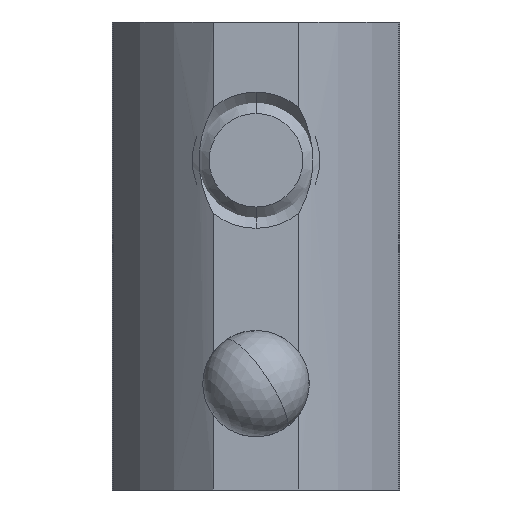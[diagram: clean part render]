
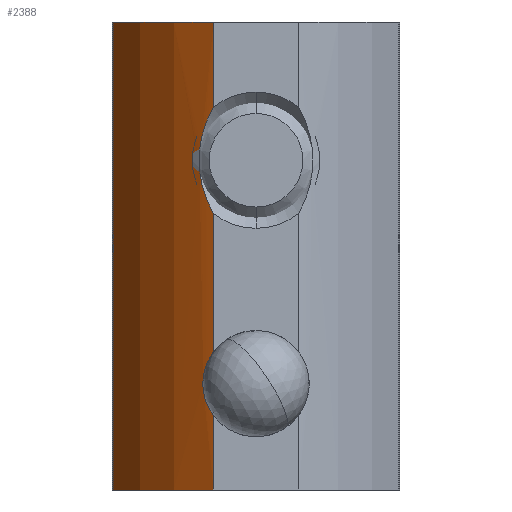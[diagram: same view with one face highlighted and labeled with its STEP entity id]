
A CAD part, front view. The second image highlights one B-rep face of the part: STEP entity #2388.
In plain terms, the highlighted cylindrical face has radius 15 mm (diameter 30 mm), a partial arc.
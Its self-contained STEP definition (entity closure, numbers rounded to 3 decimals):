
#23 = CARTESIAN_POINT ( 'NONE',  ( -2., -9., 2.498 ) ) ;
#44 = CARTESIAN_POINT ( 'NONE',  ( -2.5, -8.618, -10.5 ) ) ;
#84 = CARTESIAN_POINT ( 'NONE',  ( -2., -9., -2.498 ) ) ;
#237 = CARTESIAN_POINT ( 'NONE',  ( -2.354, -8.733, -11.341 ) ) ;
#335 = AXIS2_PLACEMENT_3D ( 'NONE', #12799, #3803, #11060 ) ;
#436 = CARTESIAN_POINT ( 'NONE',  ( -2.32, -8.759, -11.431 ) ) ;
#758 = CARTESIAN_POINT ( 'NONE',  ( -2.48, -8.634, -1.372 ) ) ;
#1010 = ORIENTED_EDGE ( 'NONE', *, *, #6101, .T. ) ;
#1093 = DIRECTION ( 'NONE',  ( 0., 0., -1. ) ) ;
#1099 = LINE ( 'NONE', #6723, #16069 ) ;
#1156 = B_SPLINE_CURVE_WITH_KNOTS ( 'NONE', 3,
 ( #13426, #1494, #9157, #12070, #15083, #436, #7390, #237, #16545, #1695, #44 ),
 .UNSPECIFIED., .F., .F.,
 ( 4, 2, 1, 2, 2, 4 ),
 ( 0., 0.25, 0.375, 0.438, 0.5, 1. ),
 .UNSPECIFIED. ) ;
#1158 = VERTEX_POINT ( 'NONE', #2179 ) ;
#1222 = B_SPLINE_CURVE_WITH_KNOTS ( 'NONE', 3,
 ( #84, #3675, #16672, #3773, #7924, #2216, #3587, #9669, #758, #2123, #6651, #5030, #9289, #13848, #16954, #6562, #11029, #8021, #12584, #9572, #15503, #3494, #2304, #15598 ),
 .UNSPECIFIED., .F., .F.,
 ( 4, 2, 2, 1, 2, 2, 2, 2, 2, 1, 2, 2, 4 ),
 ( 0., 0.125, 0.188, 0.219, 0.234, 0.25, 0.5, 0.625, 0.687, 0.719, 0.734, 0.75, 1. ),
 .UNSPECIFIED. ) ;
#1338 = EDGE_CURVE ( 'NONE', #18155, #5713, #3557, .T. ) ;
#1494 = CARTESIAN_POINT ( 'NONE',  ( -2.08, -8.942, -11.893 ) ) ;
#1695 = CARTESIAN_POINT ( 'NONE',  ( -2.5, -8.618, -10.776 ) ) ;
#1698 = CARTESIAN_POINT ( 'NONE',  ( -2.16, -8.883, -9.213 ) ) ;
#1747 = VECTOR ( 'NONE', #9969, 1000. ) ;
#1896 = CARTESIAN_POINT ( 'NONE',  ( -2.5, -8.618, -10.5 ) ) ;
#2123 = CARTESIAN_POINT ( 'NONE',  ( -2.487, -8.629, -1.348 ) ) ;
#2145 = ORIENTED_EDGE ( 'NONE', *, *, #13554, .T. ) ;
#2166 = EDGE_CURVE ( 'NONE', #3518, #4630, #2193, .T. ) ;
#2179 = CARTESIAN_POINT ( 'NONE',  ( -2., -9., -15.5 ) ) ;
#2193 = CIRCLE ( 'NONE', #7097, 15. ) ;
#2216 = CARTESIAN_POINT ( 'NONE',  ( -2.417, -8.683, -1.573 ) ) ;
#2275 = VERTEX_POINT ( 'NONE', #17527 ) ;
#2304 = CARTESIAN_POINT ( 'NONE',  ( -2.22, -8.839, 2.116 ) ) ;
#2388 = ADVANCED_FACE ( 'NONE', ( #18433 ), #17082, .T. ) ;
#2829 = EDGE_CURVE ( 'NONE', #13338, #18155, #1156, .T. ) ;
#3168 = CARTESIAN_POINT ( 'NONE',  ( -2.489, -8.627, -10.226 ) ) ;
#3242 = VERTEX_POINT ( 'NONE', #23 ) ;
#3439 = CARTESIAN_POINT ( 'NONE',  ( -2., -9., -9. ) ) ;
#3458 = CARTESIAN_POINT ( 'NONE',  ( -2.455, -8.654, -10.024 ) ) ;
#3494 = CARTESIAN_POINT ( 'NONE',  ( -2.384, -8.71, 1.72 ) ) ;
#3518 = VERTEX_POINT ( 'NONE', #15963 ) ;
#3519 = DIRECTION ( 'NONE',  ( -1., 0., 0. ) ) ;
#3557 = B_SPLINE_CURVE_WITH_KNOTS ( 'NONE', 3,
 ( #1896, #10613, #3168, #3458, #17891, #7787, #16548, #7888, #17992, #1698, #9354 ),
 .UNSPECIFIED., .F., .F.,
 ( 4, 2, 1, 2, 2, 4 ),
 ( 0., 0.25, 0.375, 0.438, 0.5, 1. ),
 .UNSPECIFIED. ) ;
#3587 = CARTESIAN_POINT ( 'NONE',  ( -2.442, -8.664, -1.498 ) ) ;
#3675 = CARTESIAN_POINT ( 'NONE',  ( -2.109, -8.92, -2.309 ) ) ;
#3696 = AXIS2_PLACEMENT_3D ( 'NONE', #15619, #10864, #3519 ) ;
#3773 = CARTESIAN_POINT ( 'NONE',  ( -2.328, -8.754, -1.821 ) ) ;
#3803 = DIRECTION ( 'NONE',  ( 0., 0., -1. ) ) ;
#3813 = ORIENTED_EDGE ( 'NONE', *, *, #2829, .T. ) ;
#4189 = VERTEX_POINT ( 'NONE', #9737 ) ;
#4399 = EDGE_CURVE ( 'NONE', #1158, #13338, #1099, .T. ) ;
#4580 = CARTESIAN_POINT ( 'NONE',  ( -2.5, -8.618, -10.5 ) ) ;
#4630 = VERTEX_POINT ( 'NONE', #5737 ) ;
#5030 = CARTESIAN_POINT ( 'NONE',  ( -2.675, -8.476, -0.449 ) ) ;
#5094 = EDGE_CURVE ( 'NONE', #2275, #1158, #15158, .T. ) ;
#5713 = VERTEX_POINT ( 'NONE', #3439 ) ;
#5737 = CARTESIAN_POINT ( 'NONE',  ( -2., -9., 6.5 ) ) ;
#5890 = DIRECTION ( 'NONE',  ( 0., 0., 1. ) ) ;
#6101 = EDGE_CURVE ( 'NONE', #3518, #2275, #18560, .T. ) ;
#6539 = EDGE_CURVE ( 'NONE', #5713, #4189, #10590, .T. ) ;
#6562 = CARTESIAN_POINT ( 'NONE',  ( -2.598, -8.539, 0.873 ) ) ;
#6651 = CARTESIAN_POINT ( 'NONE',  ( -2.615, -8.526, -0.886 ) ) ;
#6723 = CARTESIAN_POINT ( 'NONE',  ( -2., -9., 6.5 ) ) ;
#6804 = CARTESIAN_POINT ( 'NONE',  ( -6.702, -3.314, 6.5 ) ) ;
#6987 = DIRECTION ( 'NONE',  ( 0., 0., 1. ) ) ;
#7059 = ORIENTED_EDGE ( 'NONE', *, *, #6539, .T. ) ;
#7097 = AXIS2_PLACEMENT_3D ( 'NONE', #11914, #5890, #17830 ) ;
#7390 = CARTESIAN_POINT ( 'NONE',  ( -2.344, -8.741, -11.37 ) ) ;
#7787 = CARTESIAN_POINT ( 'NONE',  ( -2.407, -8.692, -9.824 ) ) ;
#7856 = EDGE_CURVE ( 'NONE', #3242, #4630, #17260, .T. ) ;
#7888 = CARTESIAN_POINT ( 'NONE',  ( -2.376, -8.716, -9.723 ) ) ;
#7924 = CARTESIAN_POINT ( 'NONE',  ( -2.365, -8.724, -1.723 ) ) ;
#8021 = CARTESIAN_POINT ( 'NONE',  ( -2.547, -8.581, 1.119 ) ) ;
#9157 = CARTESIAN_POINT ( 'NONE',  ( -2.15, -8.889, -11.782 ) ) ;
#9289 = CARTESIAN_POINT ( 'NONE',  ( -2.676, -8.475, 0.214 ) ) ;
#9354 = CARTESIAN_POINT ( 'NONE',  ( -2., -9., -9. ) ) ;
#9518 = DIRECTION ( 'NONE',  ( 0., 0., 1. ) ) ;
#9572 = CARTESIAN_POINT ( 'NONE',  ( -2.512, -8.608, 1.255 ) ) ;
#9669 = CARTESIAN_POINT ( 'NONE',  ( -2.465, -8.646, -1.422 ) ) ;
#9737 = CARTESIAN_POINT ( 'NONE',  ( -2., -9., -2.498 ) ) ;
#9887 = ORIENTED_EDGE ( 'NONE', *, *, #2166, .F. ) ;
#9969 = DIRECTION ( 'NONE',  ( 0., 0., 1. ) ) ;
#10156 = ORIENTED_EDGE ( 'NONE', *, *, #4399, .T. ) ;
#10590 = LINE ( 'NONE', #15358, #19189 ) ;
#10613 = CARTESIAN_POINT ( 'NONE',  ( -2.5, -8.618, -10.362 ) ) ;
#10864 = DIRECTION ( 'NONE',  ( 0., 0., 1. ) ) ;
#11029 = CARTESIAN_POINT ( 'NONE',  ( -2.565, -8.566, 1.037 ) ) ;
#11060 = DIRECTION ( 'NONE',  ( -1., 0., 0. ) ) ;
#11914 = CARTESIAN_POINT ( 'NONE',  ( 6.854, 3.108, 6.5 ) ) ;
#12070 = CARTESIAN_POINT ( 'NONE',  ( -2.241, -8.82, -11.61 ) ) ;
#12584 = CARTESIAN_POINT ( 'NONE',  ( -2.526, -8.597, 1.201 ) ) ;
#12799 = CARTESIAN_POINT ( 'NONE',  ( 6.854, 3.108, 6.5 ) ) ;
#12826 = CARTESIAN_POINT ( 'NONE',  ( -2., -9., -12. ) ) ;
#13053 = EDGE_LOOP ( 'NONE', ( #1010, #16510, #10156, #3813, #15154, #7059, #2145, #14453, #9887 ) ) ;
#13173 = CARTESIAN_POINT ( 'NONE',  ( -2., -9., 6.5 ) ) ;
#13338 = VERTEX_POINT ( 'NONE', #12826 ) ;
#13426 = CARTESIAN_POINT ( 'NONE',  ( -2., -9., -12. ) ) ;
#13554 = EDGE_CURVE ( 'NONE', #4189, #3242, #1222, .T. ) ;
#13848 = CARTESIAN_POINT ( 'NONE',  ( -2.661, -8.487, 0.435 ) ) ;
#14453 = ORIENTED_EDGE ( 'NONE', *, *, #7856, .T. ) ;
#14876 = VECTOR ( 'NONE', #1093, 1000. ) ;
#15083 = CARTESIAN_POINT ( 'NONE',  ( -2.284, -8.788, -11.522 ) ) ;
#15154 = ORIENTED_EDGE ( 'NONE', *, *, #1338, .T. ) ;
#15158 = CIRCLE ( 'NONE', #3696, 15. ) ;
#15358 = CARTESIAN_POINT ( 'NONE',  ( -2., -9., 6.5 ) ) ;
#15503 = CARTESIAN_POINT ( 'NONE',  ( -2.504, -8.614, 1.284 ) ) ;
#15598 = CARTESIAN_POINT ( 'NONE',  ( -2., -9., 2.498 ) ) ;
#15619 = CARTESIAN_POINT ( 'NONE',  ( 6.854, 3.108, -15.5 ) ) ;
#15963 = CARTESIAN_POINT ( 'NONE',  ( -6.702, -3.314, 6.5 ) ) ;
#16069 = VECTOR ( 'NONE', #6987, 1000. ) ;
#16510 = ORIENTED_EDGE ( 'NONE', *, *, #5094, .T. ) ;
#16545 = CARTESIAN_POINT ( 'NONE',  ( -2.456, -8.654, -11.045 ) ) ;
#16548 = CARTESIAN_POINT ( 'NONE',  ( -2.387, -8.707, -9.757 ) ) ;
#16672 = CARTESIAN_POINT ( 'NONE',  ( -2.204, -8.848, -2.116 ) ) ;
#16954 = CARTESIAN_POINT ( 'NONE',  ( -2.617, -8.524, 0.764 ) ) ;
#17082 = CYLINDRICAL_SURFACE ( 'NONE', #335, 15. ) ;
#17260 = LINE ( 'NONE', #13173, #1747 ) ;
#17527 = CARTESIAN_POINT ( 'NONE',  ( -6.702, -3.314, -15.5 ) ) ;
#17830 = DIRECTION ( 'NONE',  ( -1., 0., 0. ) ) ;
#17891 = CARTESIAN_POINT ( 'NONE',  ( -2.434, -8.67, -9.923 ) ) ;
#17992 = CARTESIAN_POINT ( 'NONE',  ( -2.281, -8.79, -9.444 ) ) ;
#18155 = VERTEX_POINT ( 'NONE', #4580 ) ;
#18433 = FACE_OUTER_BOUND ( 'NONE', #13053, .T. ) ;
#18560 = LINE ( 'NONE', #6804, #14876 ) ;
#19189 = VECTOR ( 'NONE', #9518, 1000. ) ;
